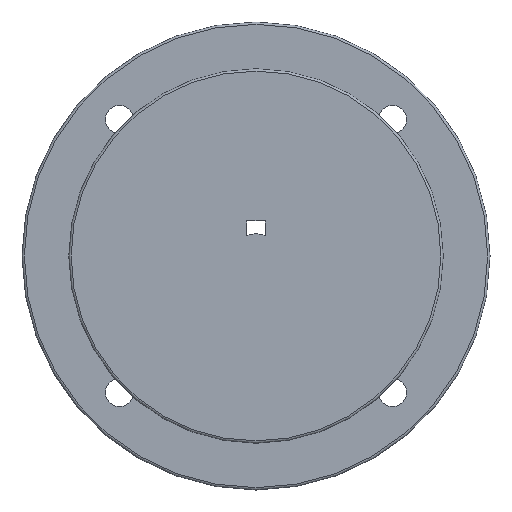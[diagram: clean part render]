
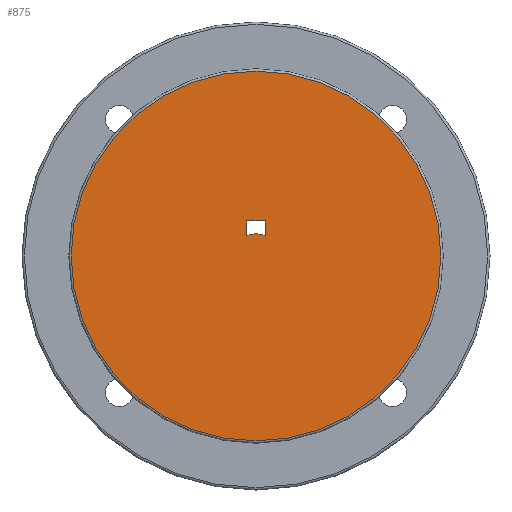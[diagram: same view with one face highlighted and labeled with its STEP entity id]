
A CAD part, left-side view. The second image highlights one B-rep face of the part: STEP entity #875.
In plain terms, the highlighted planar face has unit normal (-1, 0, 0).
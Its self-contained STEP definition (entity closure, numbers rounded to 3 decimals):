
#84=CARTESIAN_POINT('',(0.,4.0,8.617));
#85=VERTEX_POINT('',#84);
#92=CARTESIAN_POINT('',(0.,-4.0,8.617));
#93=VERTEX_POINT('',#92);
#94=CARTESIAN_POINT('',(0.0,0.0,0.0));
#95=DIRECTION('',(-1.0,0.0,0.0));
#96=DIRECTION('',(0.0,0.0,1.0));
#97=AXIS2_PLACEMENT_3D('',#94,#95,#96);
#98=CIRCLE('',#97,9.5);
#99=EDGE_CURVE('',#93,#85,#98,.T.);
#115=CARTESIAN_POINT('',(0.,4.0,15.0));
#116=VERTEX_POINT('',#115);
#117=CARTESIAN_POINT('',(0.0,4.,8.617));
#118=DIRECTION('',(0.0,0.0,1.0));
#119=VECTOR('',#118,6.383);
#120=LINE('',#117,#119);
#121=EDGE_CURVE('',#85,#116,#120,.T.);
#154=CARTESIAN_POINT('',(0.,-4.0,15.0));
#155=VERTEX_POINT('',#154);
#156=CARTESIAN_POINT('',(0.0,4.0,15.0));
#157=DIRECTION('',(0.0,-1.0,0.0));
#158=VECTOR('',#157,8.0);
#159=LINE('',#156,#158);
#160=EDGE_CURVE('',#116,#155,#159,.T.);
#185=CARTESIAN_POINT('',(0.0,-4.,15.0));
#186=DIRECTION('',(0.0,0.0,-1.0));
#187=VECTOR('',#186,6.383);
#188=LINE('',#185,#187);
#189=EDGE_CURVE('',#155,#93,#188,.T.);
#846=CARTESIAN_POINT('',(0.0,79.0,0.0));
#847=VERTEX_POINT('',#846);
#848=CARTESIAN_POINT('',(0.0,0.0,0.0));
#849=DIRECTION('',(1.0,0.0,0.0));
#850=DIRECTION('',(0.0,-1.0,0.0));
#851=AXIS2_PLACEMENT_3D('',#848,#849,#850);
#852=CIRCLE('',#851,79.0);
#853=EDGE_CURVE('',#847,#847,#852,.T.);
#861=CARTESIAN_POINT('',(0.0,62.,0.));
#862=DIRECTION('',(-1.0,0.0,0.0));
#863=DIRECTION('',(0.0,0.0,1.0));
#864=AXIS2_PLACEMENT_3D('',#861,#862,#863);
#865=PLANE('',#864);
#866=ORIENTED_EDGE('',*,*,#853,.F.);
#867=EDGE_LOOP('',(#866));
#868=FACE_OUTER_BOUND('',#867,.T.);
#869=ORIENTED_EDGE('',*,*,#99,.T.);
#870=ORIENTED_EDGE('',*,*,#121,.T.);
#871=ORIENTED_EDGE('',*,*,#160,.T.);
#872=ORIENTED_EDGE('',*,*,#189,.T.);
#873=EDGE_LOOP('',(#869,#870,#871,#872));
#874=FACE_BOUND('',#873,.T.);
#875=ADVANCED_FACE('',(#868,#874),#865,.T.);
